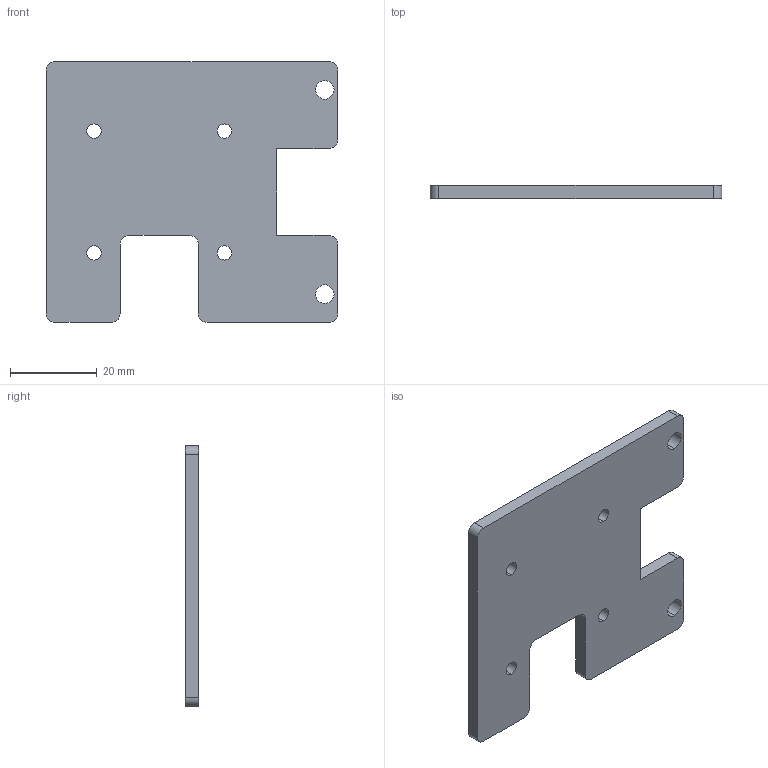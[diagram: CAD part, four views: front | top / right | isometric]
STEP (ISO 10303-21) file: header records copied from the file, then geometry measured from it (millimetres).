
FILE_DESCRIPTION (( 'STEP AP203' ), '1' );
FILE_NAME ('MAM13010 -XB- Tole de fixation cahine de Cable Y.STEP', '2024-12-19T17:19:17', ( '' ), ( '' ), 'SwSTEP 2.0', 'SolidWorks 2019', '' );
FILE_SCHEMA (( 'CONFIG_CONTROL_DESIGN' ));
Length unit declared in the file: millimetre
Products named in the file (1): MAM13010 -XB- Tole de fixation cahine de Cable Y
Bounding box: 67.07 x 3 x 60 mm (x, y, z)
Volume: 9943.3 mm3; surface area: 7775.3 mm2
Topology: 1 solids, 1 shells, 36 faces, 102 edges, 68 vertices
Faces by surface type: cylinder 22, plane 14
Entity records: 1291 total; most frequent: DIRECTION 220, CARTESIAN_POINT 207, ORIENTED_EDGE 204, EDGE_CURVE 102, AXIS2_PLACEMENT_3D 81, VERTEX_POINT 68, LINE 58, VECTOR 58
